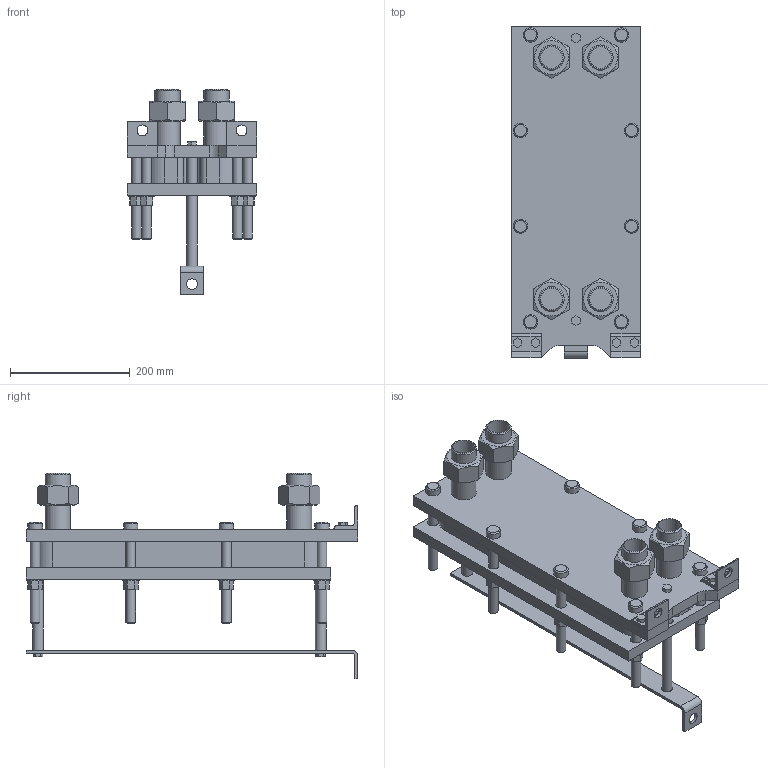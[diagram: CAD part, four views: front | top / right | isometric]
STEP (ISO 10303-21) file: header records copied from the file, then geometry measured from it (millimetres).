
FILE_DESCRIPTION(/* description */ (''),/* implementation_level */ '2;1');
FILE_NAME(/* name */ 'C:\Users\zhuro\Desktop\ENCO\TO\ЭН-004\ЭН-0,5-004-14-1.stp',/* time_stamp */ '2022-06-06T10:44:53+03:00',/* author */ ('zhuro'),/* organization */ (''),/* preprocessor_version */ 'ST-DEVELOPER v18.1',/* originating_system */ 'Autodesk Inventor 2022',/* authorisation */ '');
FILE_SCHEMA (('AUTOMOTIVE_DESIGN { 1 0 10303 214 3 1 1 }'));
Length unit declared in the file: millimetre
Products named in the file (1): ЭН-0,5-004-14-1
Bounding box: 216 x 555 x 344.2 mm (x, y, z)
Volume: 8707449 mm3; surface area: 1053136 mm2
Topology: 40 solids, 40 shells, 403 faces, 865 edges, 574 vertices
Faces by surface type: plane 272, cylinder 103, cone 28
Full cylindrical faces by diameter (mm): 10 x4, 16 x16, 18 x29, 20 x2, 24 x8, 28 x8, 36.3 x5, 42.3 x9
Entity records: 11137 total; most frequent: CARTESIAN_POINT 1939, DIRECTION 1879, ORIENTED_EDGE 1730, EDGE_CURVE 865, AXIS2_PLACEMENT_3D 658, VERTEX_POINT 574, LINE 563, VECTOR 563
